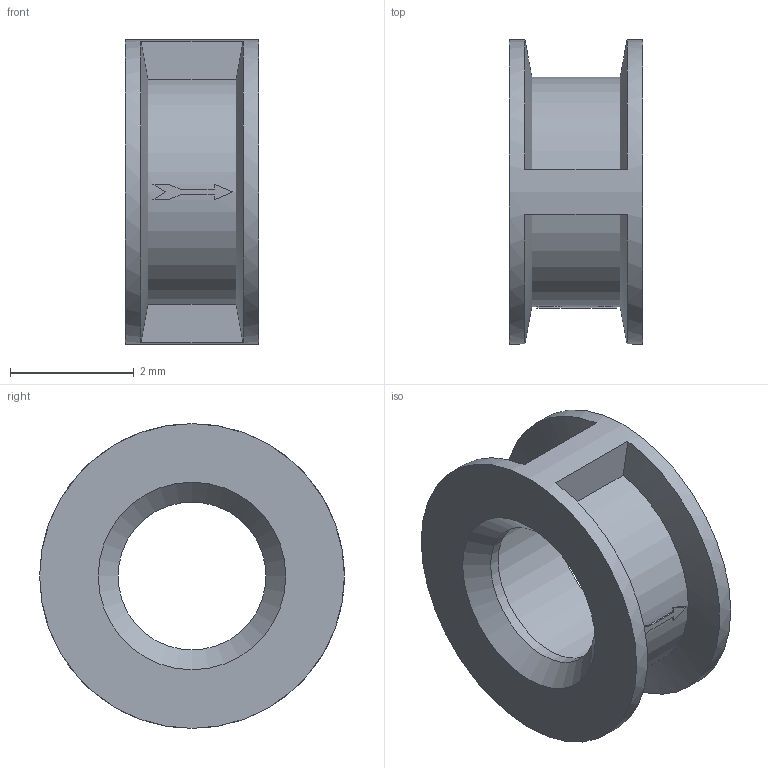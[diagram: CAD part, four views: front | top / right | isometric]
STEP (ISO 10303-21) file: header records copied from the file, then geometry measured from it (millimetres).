
FILE_DESCRIPTION(('Open CASCADE Model'),'2;1');
FILE_NAME('Open CASCADE Shape Model','2021-09-27T08:42:45',('Author'),( 'Open CASCADE'),'Open CASCADE STEP processor 7.3','Open CASCADE 7.3' ,'Unknown');
FILE_SCHEMA(('AUTOMOTIVE_DESIGN { 1 0 10303 214 1 1 1 1 }'));
Length unit declared in the file: millimetre
Products named in the file (1): Open CASCADE STEP translator 7.3 1
Bounding box: 2.15 x 4.92 x 4.92 mm (x, y, z)
Volume: 13.9 mm3; surface area: 91.6 mm2
Topology: 1 solids, 1 shells, 30 faces, 75 edges, 50 vertices
Faces by surface type: plane 20, cone 5, cylinder 5
Full cylindrical faces by diameter (mm): 2.39 x1, 3.17 x1, 4.925 x1
Entity records: 2082 total; most frequent: CARTESIAN_POINT 607, DIRECTION 269, ORIENTED_EDGE 150, PCURVE 150, DEFINITIONAL_REPRESENTATION 150, LINE 150, VECTOR 150, EDGE_CURVE 75
